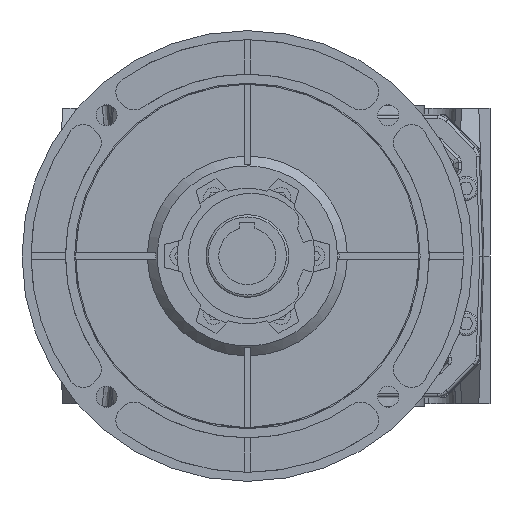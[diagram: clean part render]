
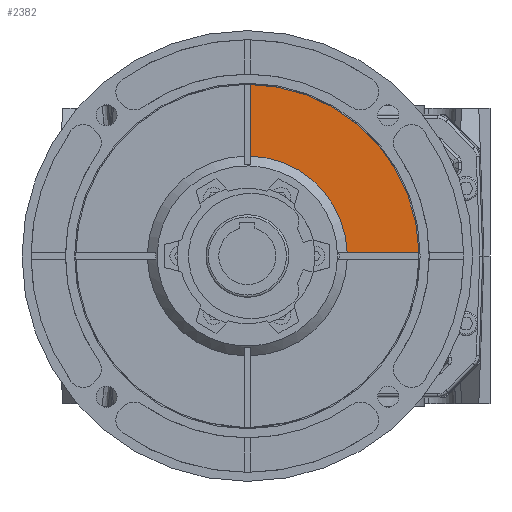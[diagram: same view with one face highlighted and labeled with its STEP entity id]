
A CAD part, left-side view. The second image highlights one B-rep face of the part: STEP entity #2382.
In plain terms, the highlighted planar face has unit normal (-1, 0, 0).
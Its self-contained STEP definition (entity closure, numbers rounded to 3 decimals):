
#2382 = ADVANCED_FACE( '', ( #6599 ), #6600, .F. );
#6599 = FACE_OUTER_BOUND( '', #14982, .T. );
#6600 = PLANE( '', #14983 );
#14982 = EDGE_LOOP( '', ( #34696, #34697, #34698, #34699 ) );
#14983 = AXIS2_PLACEMENT_3D( '', #34700, #34701, #34702 );
#34696 = ORIENTED_EDGE( '', *, *, #49551, .T. );
#34697 = ORIENTED_EDGE( '', *, *, #50173, .F. );
#34698 = ORIENTED_EDGE( '', *, *, #50174, .F. );
#34699 = ORIENTED_EDGE( '', *, *, #50175, .T. );
#34700 = CARTESIAN_POINT( '', ( -351.501, 48., 0. ) );
#34701 = DIRECTION( '', ( 1., 0., 0. ) );
#34702 = DIRECTION( '', ( 0., 1., 0. ) );
#49551 = EDGE_CURVE( '', #56221, #56219, #56222, .T. );
#50173 = EDGE_CURVE( '', #57307, #56219, #57308, .T. );
#50174 = EDGE_CURVE( '', #57309, #57307, #57310, .T. );
#50175 = EDGE_CURVE( '', #57309, #56221, #57311, .T. );
#56219 = VERTEX_POINT( '', #65951 );
#56221 = VERTEX_POINT( '', #65956 );
#56222 = LINE( '', #65957, #65958 );
#57307 = VERTEX_POINT( '', #69690 );
#57308 = CIRCLE( '', #69691, 66.5 );
#57309 = VERTEX_POINT( '', #69692 );
#57310 = LINE( '', #69693, #69694 );
#57311 = CIRCLE( '', #69695, 114.25 );
#65951 = CARTESIAN_POINT( '', ( -351.501, -20.5, 66.47 ) );
#65956 = CARTESIAN_POINT( '', ( -351.501, -20.5, 114.232 ) );
#65957 = CARTESIAN_POINT( '', ( -351.501, -20.5, 0. ) );
#65958 = VECTOR( '', #88166, 1000. );
#69690 = CARTESIAN_POINT( '', ( -351.501, -84.97, 2. ) );
#69691 = AXIS2_PLACEMENT_3D( '', #88940, #88941, #88942 );
#69692 = CARTESIAN_POINT( '', ( -351.501, -132.732, 2. ) );
#69693 = CARTESIAN_POINT( '', ( -351.501, 48., 2. ) );
#69694 = VECTOR( '', #88943, 1000. );
#69695 = AXIS2_PLACEMENT_3D( '', #88944, #88945, #88946 );
#88166 = DIRECTION( '', ( 0., 0., -1. ) );
#88940 = CARTESIAN_POINT( '', ( -351.501, -18.5, 0. ) );
#88941 = DIRECTION( '', ( -1., 0., 0. ) );
#88942 = DIRECTION( '', ( 0., -1., 0. ) );
#88943 = DIRECTION( '', ( 0., 1., 0. ) );
#88944 = CARTESIAN_POINT( '', ( -351.501, -18.5, 0. ) );
#88945 = DIRECTION( '', ( -1., 0., 0. ) );
#88946 = DIRECTION( '', ( 0., -1., 0. ) );
